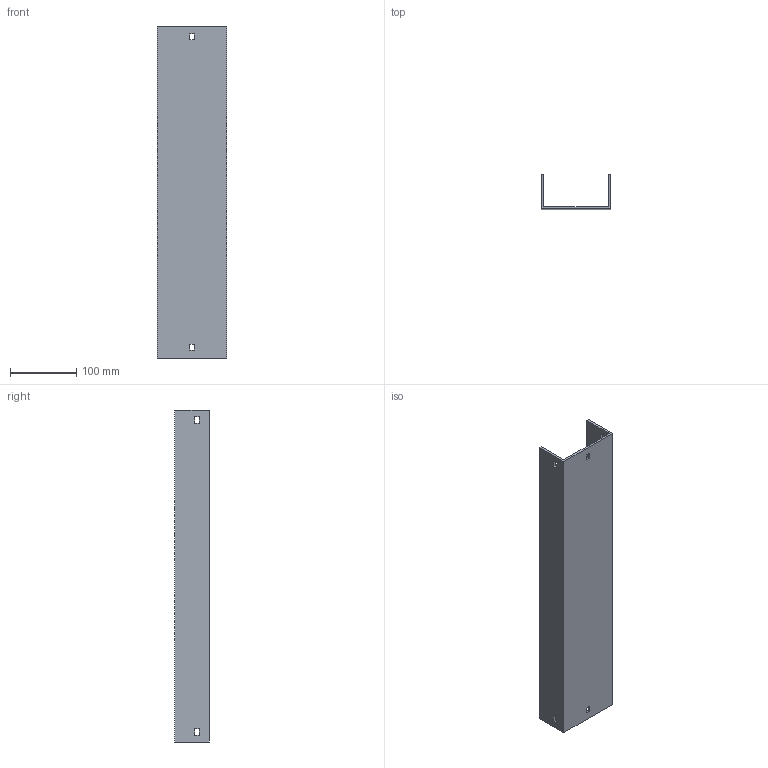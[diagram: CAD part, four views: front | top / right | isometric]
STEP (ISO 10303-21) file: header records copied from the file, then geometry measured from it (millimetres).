
FILE_DESCRIPTION (( 'STEP AP214' ), '1' );
FILE_NAME ('03F7B100.step', '2025-02-21T13:24:37', ( '' ), ( '' ), 'SwSTEP 2.0', 'SolidWorks 2023', '' );
FILE_SCHEMA (( 'AUTOMOTIVE_DESIGN' ));
Length unit declared in the file: millimetre
Products named in the file (1): 03F7B100
Bounding box: 104 x 52 x 500 mm (x, y, z)
Volume: 350360.5 mm3; surface area: 205806 mm2
Topology: 1 solids, 1 shells, 34 faces, 96 edges, 64 vertices
Faces by surface type: plane 34
Entity records: 1127 total; most frequent: CARTESIAN_POINT 195, ORIENTED_EDGE 192, DIRECTION 166, VECTOR 96, EDGE_CURVE 96, LINE 96, VERTEX_POINT 64, EDGE_LOOP 46
